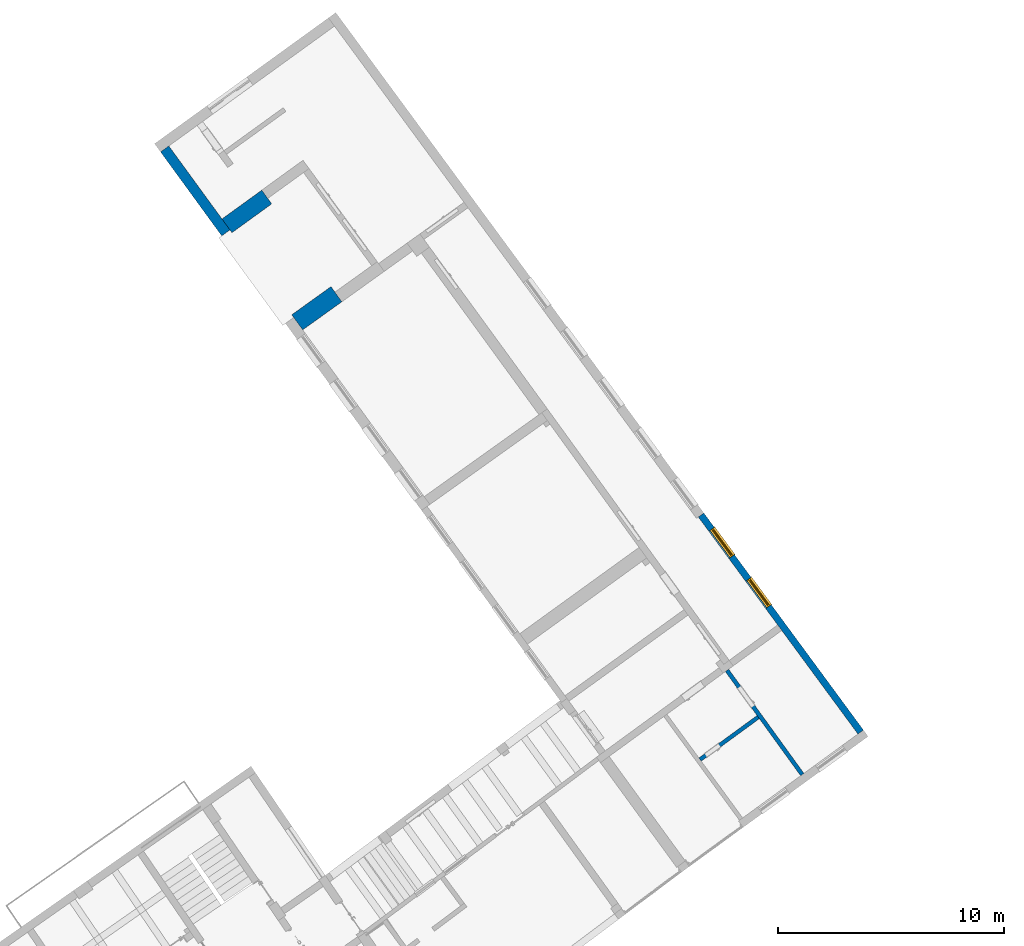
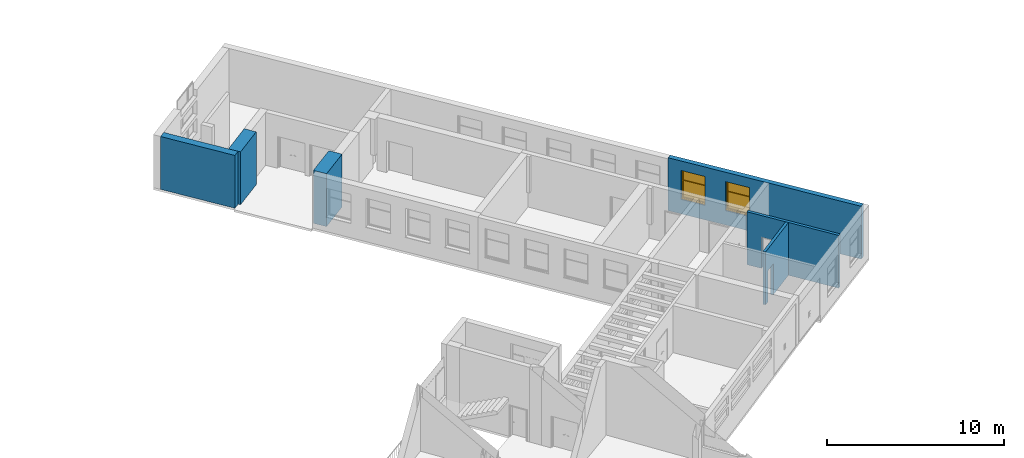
"""IFC2X3 building model written with IfcOpenShell, lengths in millimetres."""

from ifc_helpers import new_model, entity, si_unit, converted_unit, derived_unit, direction, frame, frame_2d, origin, place, context, subcontext, project, spatial, polyline, rectangle, outline, extrude, faceted_brep, source, transform, mapped, material, material_list, layer, layer_set, layer_usage, type_object, type_shapes, element, fill, save


model = new_model("IFC2X3")

# Units and contexts
model_context = context("Model", 3, precision=0.01, world=origin(), true_north=direction((6.123031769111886e-17, 1.0)))
body_context = subcontext(model_context, "Body", "Model", "MODEL_VIEW")
ifc_project = project(units=[si_unit("LENGTHUNIT", "METRE", prefix="MILLI"), si_unit("AREAUNIT", "SQUARE_METRE"), si_unit("VOLUMEUNIT", "CUBIC_METRE"), converted_unit("PLANEANGLEUNIT", "DEGREE", entity("IfcRatioMeasure", 0.017453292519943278), si_unit("PLANEANGLEUNIT", "RADIAN"), dimensions=[0, 0, 0, 0, 0, 0, 0]), si_unit("MASSUNIT", "GRAM", prefix="KILO"), derived_unit("MASSDENSITYUNIT", [(si_unit("MASSUNIT", "GRAM", prefix="KILO"), 1), (si_unit("LENGTHUNIT", "METRE"), -3)]), derived_unit("MOMENTOFINERTIAUNIT", [(si_unit("LENGTHUNIT", "METRE"), 4)]), si_unit("TIMEUNIT", "SECOND"), si_unit("FREQUENCYUNIT", "HERTZ"), si_unit("THERMODYNAMICTEMPERATUREUNIT", "DEGREE_CELSIUS"), derived_unit("THERMALTRANSMITTANCEUNIT", [(si_unit("MASSUNIT", "GRAM", prefix="KILO"), 1), (si_unit("THERMODYNAMICTEMPERATUREUNIT", "KELVIN"), -1), (si_unit("TIMEUNIT", "SECOND"), -3)]), derived_unit("THERMALCONDUCTANCEUNIT", [(si_unit("MASSUNIT", "GRAM", prefix="KILO"), 1), (si_unit("LENGTHUNIT", "METRE"), 1), (si_unit("THERMODYNAMICTEMPERATUREUNIT", "KELVIN"), -1), (si_unit("TIMEUNIT", "SECOND"), -3)]), derived_unit("VOLUMETRICFLOWRATEUNIT", [(si_unit("LENGTHUNIT", "METRE"), 3), (si_unit("TIMEUNIT", "SECOND"), -1)]), derived_unit("MASSFLOWRATEUNIT", [(si_unit("MASSUNIT", "GRAM", prefix="KILO"), 1), (si_unit("TIMEUNIT", "SECOND"), -1)]), derived_unit("ROTATIONALFREQUENCYUNIT", [(si_unit("TIMEUNIT", "SECOND"), -1)]), si_unit("ELECTRICCURRENTUNIT", "AMPERE"), si_unit("ELECTRICVOLTAGEUNIT", "VOLT"), si_unit("POWERUNIT", "WATT"), converted_unit("FORCEUNIT", "KIP", entity("IfcRatioMeasure", 2.088543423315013e-05), si_unit("FORCEUNIT", "NEWTON"), dimensions=[1, 1, -2, 0, 0, 0, 0]), si_unit("ILLUMINANCEUNIT", "LUX"), si_unit("LUMINOUSFLUXUNIT", "LUMEN"), si_unit("LUMINOUSINTENSITYUNIT", "CANDELA"), derived_unit("USERDEFINED", [(si_unit("MASSUNIT", "GRAM", prefix="KILO"), -1), (si_unit("LENGTHUNIT", "METRE"), -2), (si_unit("TIMEUNIT", "SECOND"), 3), (si_unit("LUMINOUSFLUXUNIT", "LUMEN"), 1)]), derived_unit("USERDEFINED", [(si_unit("MASSUNIT", "GRAM", prefix="KILO"), 1), (si_unit("LENGTHUNIT", "METRE"), 3), (si_unit("TIMEUNIT", "SECOND"), -3), (si_unit("ELECTRICCURRENTUNIT", "AMPERE"), -2)]), derived_unit("USERDEFINED", [(si_unit("LENGTHUNIT", "METRE"), 2), (si_unit("TIMEUNIT", "SECOND"), -2)]), derived_unit("SOUNDPOWERUNIT", [(si_unit("MASSUNIT", "GRAM", prefix="KILO"), 1), (si_unit("LENGTHUNIT", "METRE"), 2), (si_unit("TIMEUNIT", "SECOND"), -3)]), derived_unit("SOUNDPRESSUREUNIT", [(si_unit("MASSUNIT", "GRAM", prefix="KILO"), 1), (si_unit("LENGTHUNIT", "METRE"), -1), (si_unit("TIMEUNIT", "SECOND"), -2)]), derived_unit("LINEARVELOCITYUNIT", [(si_unit("LENGTHUNIT", "METRE"), 1), (si_unit("TIMEUNIT", "SECOND"), -1)]), si_unit("PRESSUREUNIT", "PASCAL"), derived_unit("USERDEFINED", [(si_unit("LENGTHUNIT", "METRE"), -2), (si_unit("MASSUNIT", "GRAM", prefix="KILO"), 1), (si_unit("TIMEUNIT", "SECOND"), -2)]), derived_unit("LINEARFORCEUNIT", [(si_unit("MASSUNIT", "GRAM", prefix="KILO"), 1), (si_unit("LENGTHUNIT", "METRE"), 1), (si_unit("TIMEUNIT", "SECOND"), -2), (si_unit("LENGTHUNIT", "METRE"), -1)]), derived_unit("PLANARFORCEUNIT", [(si_unit("MASSUNIT", "GRAM", prefix="KILO"), 1), (si_unit("LENGTHUNIT", "METRE"), 1), (si_unit("TIMEUNIT", "SECOND"), -2), (si_unit("LENGTHUNIT", "METRE"), -2)]), derived_unit("SPECIFICHEATCAPACITYUNIT", [(si_unit("LENGTHUNIT", "METRE"), 2), (si_unit("TIMEUNIT", "SECOND"), -2), (si_unit("THERMODYNAMICTEMPERATUREUNIT", "KELVIN"), -1)]), derived_unit("VAPORPERMEABILITYUNIT", [(si_unit("TIMEUNIT", "SECOND"), 1), (si_unit("LENGTHUNIT", "METRE"), -1)]), derived_unit("DYNAMICVISCOSITYUNIT", [(si_unit("MASSUNIT", "GRAM", prefix="KILO"), 1), (si_unit("LENGTHUNIT", "METRE"), -1), (si_unit("TIMEUNIT", "SECOND"), -1)]), derived_unit("THERMALEXPANSIONCOEFFICIENTUNIT", [(si_unit("THERMODYNAMICTEMPERATUREUNIT", "KELVIN"), -1)])], contexts=[model_context])

# Site, building, storey
site_placement = place(None, frame((0.0, 0.0, 0.0), z_axis=(0.0, 0.0, 1.0), x_axis=(0.8191520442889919, 0.5735764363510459, 0.0)))
site = spatial("IfcSite", under=ifc_project, at=site_placement, Name="Default", CompositionType="ELEMENT")
building_placement = place(site_placement, origin())
building = spatial("IfcBuilding", under=site, at=building_placement, CompositionType="ELEMENT")
storey_1_placement = place(building_placement, origin())
storey_1 = spatial("IfcBuildingStorey", under=building, at=storey_1_placement, Name="1.EG +0.00", CompositionType="ELEMENT", Elevation=-4.331468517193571e-12)

# Wall
ifc_material_1 = material(Name="Analytical Wall Surface_CJC")
ifc_layer_1 = layer(ifc_material_1, 450.00000000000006)
ifc_layer_set_1 = layer_set([ifc_layer_1], Name="Basic Wall:Wand_Aussen_45")
ifc_layer_usage_1 = layer_usage(ifc_layer_set_1, "AXIS2", "POSITIVE", -225.00000000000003)
wall_type_1 = type_object("IfcWallType", Name="Basic Wall:Wand_Aussen_45", PredefinedType="STANDARD", material=ifc_layer_set_1)
wall_1_placement = place(storey_1_placement, frame((-191460.1048112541, 197620.50230119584, -1150.0), z_axis=(0.0, 0.0, 1.0), x_axis=(0.01853983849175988, -0.9998281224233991, 0.0)))
element("IfcWallStandardCase", 1, at=wall_1_placement, inside=storey_1, type_object=wall_type_1, material=ifc_layer_usage_1, Name="Basic Wall:Wand_Aussen_45", ObjectType="Basic Wall:Wand_Aussen_45", context=body_context, shape_type="SweptSolid", body=[
    extrude(outline(polyline([(4602.185281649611, -225.0), (4603.574817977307, 225.0), (4003.5719575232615, 225.0), (1.389536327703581, 225.0), (0.0, -225.0), (4602.185281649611, -225.0)])), origin(), (0.0, 0.0, 1.0), 3650.0000000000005),
])

# Wall, openings
ifc_layer_2 = layer(ifc_material_1, 300.0)
ifc_layer_set_2 = layer_set([ifc_layer_2], Name="Basic Wall:Wand_Aussen_30")
ifc_layer_usage_2 = layer_usage(ifc_layer_set_2, "AXIS2", "POSITIVE", -150.0)
wall_type_2 = type_object("IfcWallType", Name="Basic Wall:Wand_Aussen_30", PredefinedType="STANDARD", material=ifc_layer_set_2)
wall_2_placement = place(storey_1_placement, frame((-181017.46667786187, 158765.81767465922, -1150.0), z_axis=(0.0, 0.0, 1.0), x_axis=(-0.023275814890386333, 0.9997290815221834, 0.0)))
wall_2 = element("IfcWallStandardCase", 2, at=wall_2_placement, inside=storey_1, type_object=wall_type_2, material=ifc_layer_usage_2, Name="Basic Wall:Wand_Aussen_30", ObjectType="Basic Wall:Wand_Aussen_30", context=body_context, shape_type="SweptSolid", body=[
    extrude(outline(polyline([(11937.220636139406, -150.0), (11937.220636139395, 150.0), (6000.730050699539, 150.0), (5700.727920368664, 150.0), (1.4554348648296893, 150.0), (0.0, -150.0), (11937.220636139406, -150.0)])), origin(), (0.0, 0.0, 1.0), 3650.0000000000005),
])
opening_1_placement = place(wall_2_placement, frame((9650.730050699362, -150.0, 1000.0)))
opening_1 = element("IfcOpeningElement", 3, at=opening_1_placement, cuts=wall_2, Name="Windows_Sgl_Horz_Bars:200x150:1", ObjectType="Opening", context=body_context, shape_type="SweptSolid", body=[
    extrude(rectangle(XDim=2000.000000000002, YDim=1500.0, at=frame_2d((1000.0000000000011, 750.0000000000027), x_axis=(-1.0, 0.0))), frame((0.0, 0.0, 0.0), z_axis=(0.0, 1.0, 0.0), x_axis=(0.0, 0.0, 1.0)), (0.0, 0.0, 1.0), 300.0),
])
opening_2_placement = place(wall_2_placement, frame((6900.730050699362, -150.0, 1000.0)))
opening_2 = element("IfcOpeningElement", 4, at=opening_2_placement, cuts=wall_2, Name="Windows_Sgl_Horz_Bars:200x150:1", ObjectType="Opening", context=body_context, shape_type="SweptSolid", body=[
    extrude(rectangle(XDim=2000.000000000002, YDim=1500.0000000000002, at=frame_2d((1000.0000000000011, 750.00000000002), x_axis=(-1.0, 0.0))), frame((0.0, 0.0, 0.0), z_axis=(0.0, 1.0, 0.0), x_axis=(0.0, 0.0, 1.0)), (0.0, 0.0, 1.0), 300.0),
])

# Storey
storey_2_placement = place(building_placement, frame((0.0, 0.0, -1150.0)))
storey_2 = spatial("IfcBuildingStorey", under=building, at=storey_2_placement, Name="6.EG KH -1.15", CompositionType="ELEMENT", Elevation=-1150.0000000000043)

# Window
ifc_material_2 = material(Name="Window Frame")
ifc_material_3 = material(Name="Glass")
ifc_material_list = material_list([ifc_material_2, ifc_material_3])
window_style = type_object("IfcWindowStyle", Name="Windows_Sgl_Horz_Bars:200x150", ConstructionType="NOTDEFINED", OperationType="SINGLE_PANEL", ParameterTakesPrecedence=False, Sizeable=False, material=ifc_material_list)
shared_shape = source(origin(), body_context, "Body", "Brep", [
    faceted_brep([(-25.0, -25.0, 0.0), (-25.0, 0.0, 0.0), (0.0, 0.0, 0.0), (0.0, 67.0, 0.0), (1500.0, 67.0, 0.0), (1500.0, 0.0, 0.0), (1525.0, 0.0, 0.0), (1525.0, -25.0, 0.0), (-25.0, -25.0, 25.0), (1525.0, -25.0, 25.0), (1525.0, 0.0, 25.0), (1500.0, 0.0, 25.0), (1500.0, 67.0, 25.0), (0.0, 67.0, 25.0), (0.0, 0.0, 25.0), (-25.0, 0.0, 25.0)], [[[0, 1, 2, 3, 4, 5, 6, 7]], [[8, 9, 10, 11, 12, 13, 14, 15]], [[1, 0, 8, 15]], [[2, 1, 15, 14]], [[3, 2, 14, 13]], [[4, 3, 13, 12]], [[5, 4, 12, 11]], [[6, 5, 11, 10]], [[7, 6, 10, 9]], [[0, 7, 9, 8]]]),
    faceted_brep([(0.0, 67.0, 0.0), (1500.0, 67.0, 0.0), (1500.0, 67.0, 2000.0), (0.0, 67.0, 2000.0), (60.0, 67.0, 1940.0), (1440.0, 67.0, 1940.0), (1440.0, 67.0, 75.0), (60.0, 67.0, 75.0), (0.0, 150.0, 2000.0), (0.0, 150.0, 51.0), (0.0, 165.0, 49.68767004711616), (0.0, 165.0, 44.74496761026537), (0.0, 237.4999999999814, 33.80888466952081), (0.0, 237.4999999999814, 0.0), (1500.0, 150.0, 2000.0), (1500.0, 150.0, 51.0), (40.0, 150.0, 1960.0), (40.0, 150.0, 63.0), (1460.0, 150.0, 63.0), (1460.0, 150.0, 1960.0), (40.0, 85.0, 1960.0), (40.0, 85.0, 63.0), (60.0, 85.0, 1940.0), (60.0, 85.0, 75.0), (1440.0, 85.0, 75.0), (1440.0, 85.0, 1940.0), (1460.0, 85.0, 1960.0), (1460.0, 85.0, 63.0), (1500.0, 237.49999999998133, 0.0), (1500.0, 237.49999999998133, 33.80888466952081), (1500.0, 165.0, 44.74496761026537), (1500.0, 165.0, 49.68767004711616)], [[[0, 1, 2, 3], [4, 5, 6, 7]], [[0, 3, 8, 9, 10, 11, 12, 13]], [[9, 8, 14, 15], [16, 17, 18, 19]], [[17, 16, 20, 21]], [[22, 23, 24, 25], [20, 26, 27, 21]], [[22, 4, 7, 23]], [[3, 2, 14, 8]], [[16, 19, 26, 20]], [[5, 4, 22, 25]], [[15, 14, 2, 1, 28, 29, 30, 31]], [[19, 18, 27, 26]], [[5, 25, 24, 6]], [[28, 1, 0, 13]], [[29, 28, 13, 12]], [[30, 29, 12, 11]], [[31, 30, 11, 10]], [[15, 31, 10, 9]], [[21, 27, 18, 17]], [[7, 6, 24, 23]]], outer=[[True, False], [True], [True, False], [True], [False, True], [True], [True], [True], [True], [True], [True], [True], [True], [True], [True], [True], [True], [True], [True]]),
    faceted_brep([(1430.148037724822, 114.0, 93.0), (1430.148037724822, 114.0, 1254.8307627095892), (70.0, 114.0, 1254.8307627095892), (70.0, 114.0, 93.0), (1430.148037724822, 138.0, 93.0), (1430.148037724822, 138.0, 1254.8307627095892), (70.0, 138.0, 1254.8307627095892), (70.0, 138.0, 93.0)], [[[0, 1, 2, 3]], [[1, 0, 4, 5]], [[2, 1, 5, 6]], [[3, 2, 6, 7]], [[0, 3, 7, 4]], [[4, 7, 6, 5]]]),
    faceted_brep([(70.0, 138.0, 1265.1692372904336), (70.0, 138.0, 1930.0), (1430.148037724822, 138.0, 1930.0), (1430.148037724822, 138.0, 1265.1692372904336), (1430.148037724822, 114.0, 1265.1692372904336), (70.0, 114.0, 1265.1692372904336), (1430.1480377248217, 114.0, 1930.0), (70.0, 114.0, 1930.0)], [[[0, 1, 2, 3]], [[4, 5, 0, 3]], [[6, 4, 3, 2]], [[7, 6, 2, 1]], [[5, 7, 1, 0]], [[5, 4, 6, 7]]]),
    faceted_brep([(1430.1480377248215, 161.54700538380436, 1265.1692372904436), (1430.1480377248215, 155.87121188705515, 1275.0), (1430.1480377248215, 138.0, 1275.0), (1430.1480377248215, 138.0, 1268.0), (1430.1480377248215, 114.0, 1268.0), (1430.1480377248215, 114.0, 1275.0), (1430.1480377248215, 99.49289984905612, 1275.0), (1430.1480377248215, 85.0, 1269.8519622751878), (1430.1480377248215, 85.0, 1250.1480377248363), (1430.1480377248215, 99.49289984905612, 1245.0), (1430.1480377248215, 114.0, 1245.0), (1430.1480377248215, 114.0, 1252.0), (1430.1480377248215, 138.0, 1252.0), (1430.1480377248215, 138.0, 1245.0), (1430.1480377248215, 155.87121188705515, 1245.0), (1430.1480377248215, 161.54700538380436, 1254.8307627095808), (69.85196227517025, 161.54700538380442, 1265.1692372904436), (69.85196227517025, 161.54700538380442, 1254.8307627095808), (69.85196227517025, 155.8712118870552, 1245.0), (69.85196227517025, 138.0, 1245.0), (69.85196227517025, 138.0, 1252.0), (69.85196227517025, 114.0, 1252.0), (69.85196227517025, 114.0, 1245.0), (69.85196227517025, 99.49289984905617, 1245.0), (69.85196227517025, 85.0, 1250.1480377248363), (69.85196227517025, 85.0, 1269.8519622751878), (69.85196227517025, 99.49289984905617, 1275.0), (69.85196227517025, 114.0, 1275.0), (69.85196227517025, 114.0, 1268.0), (69.85196227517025, 138.0, 1268.0), (69.85196227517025, 138.0, 1275.0), (69.85196227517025, 155.8712118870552, 1275.0)], [[[0, 1, 2, 3, 4, 5, 6, 7, 8, 9, 10, 11, 12, 13, 14, 15]], [[16, 17, 18, 19, 20, 21, 22, 23, 24, 25, 26, 27, 28, 29, 30, 31]], [[1, 0, 16, 31]], [[2, 1, 31, 30]], [[3, 2, 30, 29]], [[4, 3, 29, 28]], [[5, 4, 28, 27]], [[6, 5, 27, 26]], [[7, 6, 26, 25]], [[8, 7, 25, 24]], [[9, 8, 24, 23]], [[10, 9, 23, 22]], [[11, 10, 22, 21]], [[12, 11, 21, 20]], [[13, 12, 20, 19]], [[14, 13, 19, 18]], [[15, 14, 18, 17]], [[0, 15, 17, 16]]]),
    faceted_brep([(30.0, 150.0, 1970.0), (30.0, 155.77350269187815, 1970.0), (30.0, 155.77350269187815, 53.0), (30.0, 150.0, 53.0), (40.0, 85.0, 1960.0), (40.0, 150.0, 1960.0), (40.0, 150.0, 63.0), (40.0, 85.0, 63.0), (80.0, 99.49289984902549, 1920.0), (69.85196227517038, 85.0, 1930.1480377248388), (69.85196227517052, 85.0, 92.85196227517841), (80.0, 99.49289984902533, 103.0), (80.0, 114.0, 1920.0), (80.0, 114.0, 103.0), (70.0, 138.0, 1930.0), (70.0, 114.0, 1930.0), (70.0, 114.0, 93.0), (70.0, 138.0, 93.0), (80.0, 155.77350269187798, 1920.0), (80.0, 138.0, 1920.0), (80.0, 138.0, 103.0), (80.0, 155.77350269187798, 103.0), (70.0, 161.54700538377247, 1930.0), (70.0, 161.54700538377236, 93.0), (40.78460969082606, 161.54700538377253, 1959.2153903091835), (40.78460969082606, 161.54700538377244, 63.784609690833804), (1470.0, 155.77350269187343, 53.0), (1470.0, 150.0, 53.0), (1460.0, 150.0, 63.0), (1460.0, 85.0, 63.0), (1430.1480377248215, 85.0, 92.85196227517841), (1420.0, 99.49289984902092, 103.0), (1420.0, 114.0, 103.0), (1430.0, 114.0, 93.0), (1430.0, 138.0, 93.0), (1420.0, 138.0, 103.0), (1420.0, 155.7735026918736, 103.0), (1430.0, 161.5470053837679, 93.0), (1459.2153903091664, 161.5470053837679, 63.78460969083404), (1470.0, 155.77350269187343, 1970.0), (1470.0, 150.0, 1970.0), (1460.0, 150.0, 1960.0), (1460.0, 85.0, 1960.0), (1430.1480377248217, 85.0, 1930.148037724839), (1420.0, 99.49289984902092, 1920.0), (1420.0, 114.0, 1920.0), (1430.0, 114.0, 1930.0), (1430.0, 138.0, 1930.0), (1420.0, 138.0, 1920.0), (1420.0, 155.7735026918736, 1920.0), (1430.0, 161.54700538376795, 1930.0), (1459.2153903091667, 161.5470053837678, 1959.2153903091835)], [[[0, 1, 2, 3]], [[4, 5, 6, 7]], [[8, 9, 10, 11]], [[12, 8, 11, 13]], [[14, 15, 16, 17]], [[18, 19, 20, 21]], [[22, 18, 21, 23]], [[1, 24, 25, 2]], [[3, 2, 26, 27]], [[7, 6, 28, 29]], [[11, 10, 30, 31]], [[13, 11, 31, 32]], [[17, 16, 33, 34]], [[21, 20, 35, 36]], [[23, 21, 36, 37]], [[2, 25, 38, 26]], [[27, 26, 39, 40]], [[29, 28, 41, 42]], [[31, 30, 43, 44]], [[32, 31, 44, 45]], [[34, 33, 46, 47]], [[36, 35, 48, 49]], [[37, 36, 49, 50]], [[26, 38, 51, 39]], [[40, 39, 1, 0]], [[3, 27, 40, 0], [5, 41, 28, 6]], [[42, 41, 5, 4]], [[7, 29, 42, 4], [9, 43, 30, 10]], [[44, 43, 9, 8]], [[45, 44, 8, 12]], [[13, 32, 45, 12], [15, 46, 33, 16]], [[47, 46, 15, 14]], [[17, 34, 47, 14], [19, 48, 35, 20]], [[49, 48, 19, 18]], [[50, 49, 18, 22]], [[23, 37, 50, 22], [24, 51, 38, 25]], [[39, 51, 24, 1]]], outer=[[True], [True], [True], [True], [True], [True], [True], [True], [True], [True], [True], [True], [True], [True], [True], [True], [True], [True], [True], [True], [True], [True], [True], [True], [True], [True, False], [True], [True, False], [True], [True], [False, True], [True], [True, False], [True], [True], [False, True], [True]]),
])
type_shapes(window_style, [shared_shape])
window_1_placement = place(opening_1_placement, origin())
window_1 = element("IfcWindow", 5, at=window_1_placement, inside=storey_2, type_object=window_style, material=ifc_material_list, Name="Windows_Sgl_Horz_Bars:200x150", ObjectType="Windows_Sgl_Horz_Bars:200x150", OverallHeight=2000.0000000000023, OverallWidth=1500.0000000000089, context=body_context, shape_type="MappedRepresentation", body=[
    mapped(shared_shape, transform((0.0, 0.0, 0.0), scale=1.0)),
])

fill(opening_1, window_1)

window_2_placement = place(opening_2_placement, origin())
window_2 = element("IfcWindow", 6, at=window_2_placement, inside=storey_2, type_object=window_style, material=ifc_material_list, Name="Windows_Sgl_Horz_Bars:200x150", ObjectType="Windows_Sgl_Horz_Bars:200x150", OverallHeight=2000.0000000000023, OverallWidth=1500.0000000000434, context=body_context, shape_type="MappedRepresentation", body=[
    mapped(shared_shape, transform((0.0, 0.0, 0.0), scale=1.0)),
])

fill(opening_2, window_2)

# Walls
ifc_layer_3 = layer(ifc_material_1, 825.0)
ifc_layer_set_3 = layer_set([ifc_layer_3], Name="Basic Wall:Wand_Aussen_82.5")
ifc_layer_usage_3 = layer_usage(ifc_layer_set_3, "AXIS2", "NEGATIVE", 412.5)
wall_type_3 = type_object("IfcWallType", Name="Basic Wall:Wand_Aussen_82.5", PredefinedType="STANDARD", material=ifc_layer_set_3)
wall_3_placement = place(storey_1_placement, frame((-191058.78568416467, 187958.32321718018, -1150.0), z_axis=(0.0, 0.0, 1.0), x_axis=(0.9999333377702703, 0.011546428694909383, 0.0)))
element("IfcWallStandardCase", 7, at=wall_3_placement, inside=storey_1, type_object=wall_type_3, material=ifc_layer_usage_3, Name="Basic Wall:Wand_Aussen_82.5", ObjectType="Basic Wall:Wand_Aussen_82.5", context=body_context, shape_type="SweptSolid", body=[
    extrude(outline(polyline([(2139.1491464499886, -412.49999999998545), (2139.1491464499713, 112.49999999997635), (2139.1491464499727, 412.5000000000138), (0.0, 412.5000000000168), (1.0491494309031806, 262.4999999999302), (5.77032186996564, -412.499999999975), (2139.1491464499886, -412.49999999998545)])), origin(), (0.0, 0.0, 1.0), 3650.0000000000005),
])
ifc_layer_4 = layer(ifc_material_1, 750.0)
ifc_layer_set_4 = layer_set([ifc_layer_4], Name="Basic Wall:Wand_Aussen_75")
ifc_layer_usage_4 = layer_usage(ifc_layer_set_4, "AXIS2", "NEGATIVE", 375.0)
wall_type_4 = type_object("IfcWallType", Name="Basic Wall:Wand_Aussen_75", PredefinedType="STANDARD", material=ifc_layer_set_4)
wall_4_placement = place(storey_1_placement, frame((-188978.6852202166, 193280.46999254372, -1150.0), z_axis=(0.0, 0.0, 1.0), x_axis=(-0.9998806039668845, -0.015452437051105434, 0.0)))
element("IfcWallStandardCase", 8, at=wall_4_placement, inside=storey_1, type_object=wall_type_4, material=ifc_layer_usage_4, Name="Basic Wall:Wand_Aussen_75", ObjectType="Basic Wall:Wand_Aussen_75", context=body_context, shape_type="SweptSolid", body=[
    extrude(outline(polyline([(2176.697911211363, -375.0), (2174.8451961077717, 225.0), (2174.3820173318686, 375.0), (0.0, 375.0), (0.0, 75.0), (0.0, -375.0), (2176.697911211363, -375.0)])), origin(), (0.0, 0.0, 1.0), 3650.0000000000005),
])

# Wall, opening
ifc_layer_5 = layer(ifc_material_1, 180.0)
ifc_layer_set_5 = layer_set([ifc_layer_5], Name="Basic Wall:Wand_Innen_18")
ifc_layer_usage_5 = layer_usage(ifc_layer_set_5, "AXIS2", "NEGATIVE", 90.0)
wall_type_5 = type_object("IfcWallType", Name="Basic Wall:Wand_Innen_18", PredefinedType="STANDARD", material=ifc_layer_set_5)
wall_5_placement = place(storey_1_placement, frame((-184218.5359673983, 158707.23087868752, -1150.0), z_axis=(0.0, 0.0, 1.0), x_axis=(-0.014832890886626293, 0.9998899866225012, 0.0)))
wall_5 = element("IfcWallStandardCase", 9, at=wall_5_placement, inside=storey_1, type_object=wall_type_5, material=ifc_layer_usage_5, Name="Basic Wall:Wand_Innen_18", ObjectType="Basic Wall:Wand_Innen_18", context=body_context, shape_type="SweptSolid", body=[
    extrude(outline(polyline([(0.6467555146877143, -90.0), (5696.734099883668, -90.0), (5695.892429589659, 90.0), (3295.866192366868, 90.0), (3120.864279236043, 90.0), (0.0, 90.0), (0.6467555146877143, -90.0)])), origin(), (0.0, 0.0, 1.0), 3650.0000000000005),
])
opening_3_placement = place(wall_5_placement, frame((4789.604182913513, 90.0, 0.0)))
element("IfcOpeningElement", 10, at=opening_3_placement, cuts=wall_5, Name="Doors_IntSgl:100x210:1", ObjectType="Opening", context=body_context, shape_type="SweptSolid", body=[
    extrude(rectangle(XDim=2150.000000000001, YDim=1079.9999999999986, at=frame_2d((1075.0000000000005, 540.0000000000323), x_axis=(1.0, 0.0))), frame((0.0, 0.0, 0.0), z_axis=(0.0, -1.0, 0.0), x_axis=(0.0, 0.0, 1.0)), (0.0, 0.0, 1.0), 180.0),
])

ifc_layer_6 = layer(ifc_material_1, 175.0)
ifc_layer_set_6 = layer_set([ifc_layer_6], Name="Basic Wall:Wand_Innen_17.5")
ifc_layer_usage_6 = layer_usage(ifc_layer_set_6, "AXIS2", "POSITIVE", -87.5)
wall_type_6 = type_object("IfcWallType", Name="Basic Wall:Wand_Innen_17.5", PredefinedType="STANDARD", material=ifc_layer_set_6)
wall_6_placement = place(storey_1_placement, frame((-187547.18367582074, 161851.64463368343, -1150.0), z_axis=(0.0, 0.0, 1.0), x_axis=(0.9998096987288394, 0.019508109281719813, 0.0)))
wall_6 = element("IfcWallStandardCase", 11, at=wall_6_placement, inside=storey_1, type_object=wall_type_6, material=ifc_layer_usage_6, Name="Basic Wall:Wand_Innen_17.5", ObjectType="Basic Wall:Wand_Innen_17.5", context=body_context, shape_type="SweptSolid", body=[
    extrude(outline(polyline([(0.0, -87.50000000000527), (3191.2665128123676, -87.50000000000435), (3192.084803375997, 87.50000000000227), (0.0, 87.50000000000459), (0.0, -87.50000000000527)])), origin(), (0.0, 0.0, 1.0), 3650.0000000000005),
])
opening_4_placement = place(wall_6_placement, frame((1080.0, 87.50000000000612, 0.0)))
element("IfcOpeningElement", 12, at=opening_4_placement, cuts=wall_6, Name="Doors_IntSgl:70x210:1", ObjectType="Opening", context=body_context, shape_type="SweptSolid", body=[
    extrude(rectangle(XDim=2150.000000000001, YDim=779.9999999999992, at=frame_2d((1075.0000000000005, 389.9999999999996), x_axis=(1.0, 0.0))), frame((0.0, 0.0, 0.0), z_axis=(0.0, -1.0, 0.0), x_axis=(0.0, 0.0, 1.0)), (0.0, 0.0, 1.0), 174.99999999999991),
])

save(model, "model.ifc")
